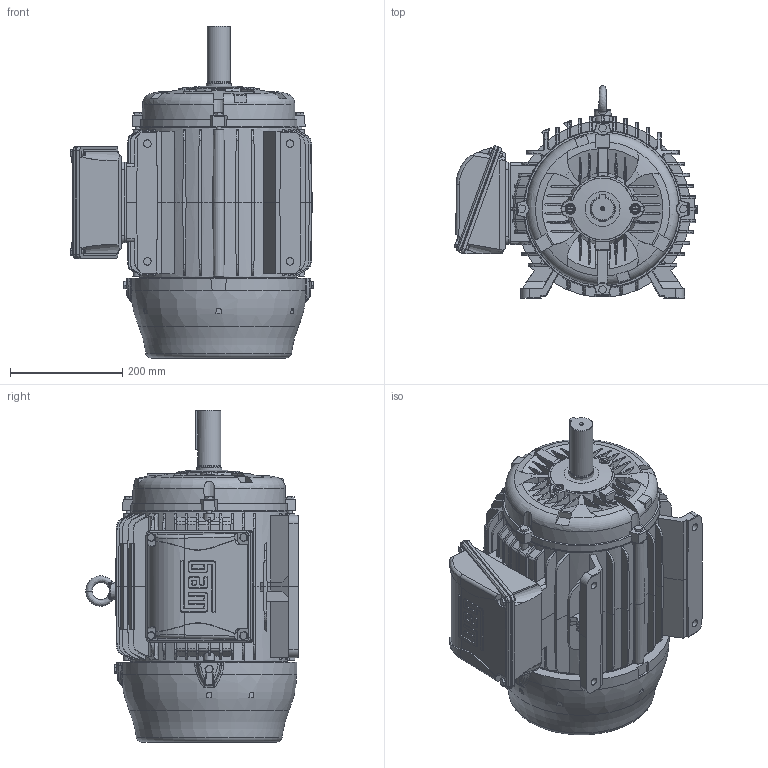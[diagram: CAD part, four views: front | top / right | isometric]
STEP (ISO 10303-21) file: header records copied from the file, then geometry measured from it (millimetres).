
FILE_DESCRIPTION (( 'STEP AP203' ), '1' );
FILE_NAME ('254T_LEFT.STEP', '2017-09-11T19:36:07', ( 'Usuário do Windows' ), ( 'WEG Equipamentos Elétricos' ), 'SwSTEP 2.0', 'SolidWorks 2016', '' );
FILE_SCHEMA (( 'CONFIG_CONTROL_DESIGN' ));
Length unit declared in the file: millimetre
Products named in the file (1): 254T_LEFT
Bounding box: 434.2 x 378.75 x 591.6 mm (x, y, z)
Volume: 35607899.7 mm3; surface area: 1547597.8 mm2
Topology: 12 solids, 13 shells, 2186 faces, 5608 edges, 3513 vertices
Faces by surface type: cylinder 810, plane 802, bspline 275, cone 253, torus 42, sphere 4
Full cylindrical faces by diameter (mm): 4 x1, 7.5 x3, 8 x15, 9.4 x1, 11.6 x11, 12 x1, 12.5 x3, 13.46 x4, 15 x2, 40.875 x1, 41.275 x1, 44.95 x1, 280 x1
Entity records: 77328 total; most frequent: CARTESIAN_POINT 28360, ORIENTED_EDGE 10946, DIRECTION 9238, EDGE_CURVE 5473, AXIS2_PLACEMENT_3D 3575, VERTEX_POINT 3474, EDGE_LOOP 2379, FACE_OUTER_BOUND 2242
